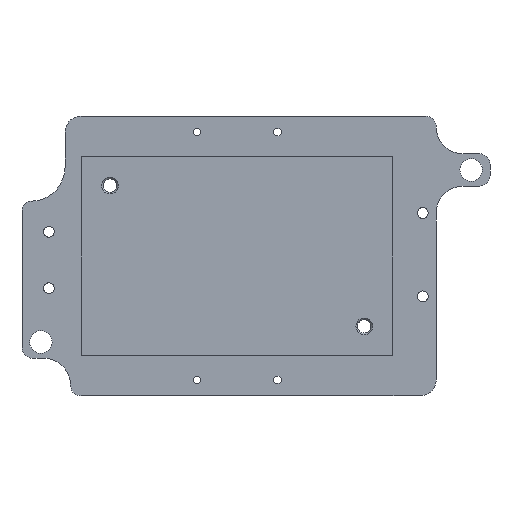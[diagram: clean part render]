
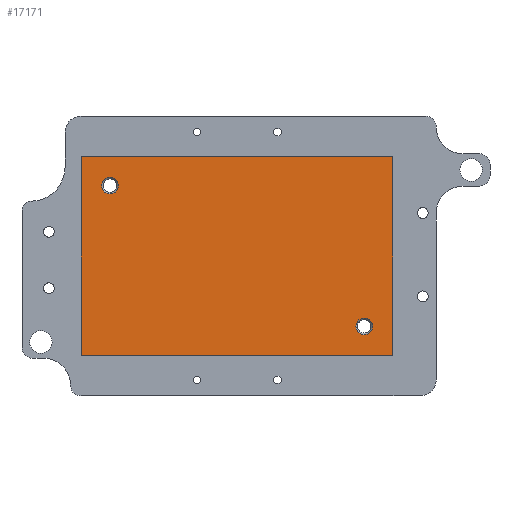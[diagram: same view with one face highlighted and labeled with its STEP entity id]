
A CAD part, front view. The second image highlights one B-rep face of the part: STEP entity #17171.
In plain terms, the highlighted planar face has unit normal (0, -1, 0).
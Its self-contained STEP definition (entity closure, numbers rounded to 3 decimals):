
#211=FACE_BOUND('',#1835,.T.);
#212=FACE_BOUND('',#1836,.T.);
#937=FACE_OUTER_BOUND('',#1834,.T.);
#1834=EDGE_LOOP('',(#14065,#14066,#14067,#14068));
#1835=EDGE_LOOP('',(#14069));
#1836=EDGE_LOOP('',(#14070));
#2114=CIRCLE('',#18114,1.55);
#2115=CIRCLE('',#18115,1.55);
#4053=LINE('',#26496,#6144);
#4057=LINE('',#26503,#6148);
#4060=LINE('',#26508,#6151);
#4061=LINE('',#26510,#6152);
#6144=VECTOR('',#21754,1000.);
#6148=VECTOR('',#21760,1000.);
#6151=VECTOR('',#21765,1000.);
#6152=VECTOR('',#21768,1000.);
#7700=VERTEX_POINT('',#26493);
#7701=VERTEX_POINT('',#26495);
#7703=VERTEX_POINT('',#26501);
#7704=VERTEX_POINT('',#26506);
#7705=VERTEX_POINT('',#26512);
#7706=VERTEX_POINT('',#26514);
#9869=EDGE_CURVE('',#7701,#7700,#4053,.T.);
#9873=EDGE_CURVE('',#7700,#7703,#4057,.T.);
#9876=EDGE_CURVE('',#7703,#7704,#4060,.T.);
#9877=EDGE_CURVE('',#7704,#7701,#4061,.T.);
#9878=EDGE_CURVE('',#7705,#7705,#2114,.T.);
#9879=EDGE_CURVE('',#7706,#7706,#2115,.T.);
#14065=ORIENTED_EDGE('',*,*,#9869,.T.);
#14066=ORIENTED_EDGE('',*,*,#9873,.T.);
#14067=ORIENTED_EDGE('',*,*,#9876,.T.);
#14068=ORIENTED_EDGE('',*,*,#9877,.T.);
#14069=ORIENTED_EDGE('',*,*,#9878,.T.);
#14070=ORIENTED_EDGE('',*,*,#9879,.T.);
#15559=PLANE('',#18113);
#17171=ADVANCED_FACE('',(#937,#211,#212),#15559,.F.);
#18113=AXIS2_PLACEMENT_3D('',#26511,#21769,#21770);
#18114=AXIS2_PLACEMENT_3D('',#26513,#21771,#21772);
#18115=AXIS2_PLACEMENT_3D('',#26515,#21773,#21774);
#21754=DIRECTION('',(0.,0.,1.));
#21760=DIRECTION('',(-1.,0.,0.));
#21765=DIRECTION('',(0.,0.,-1.));
#21768=DIRECTION('',(1.,0.,0.));
#21769=DIRECTION('center_axis',(0.,1.,0.));
#21770=DIRECTION('ref_axis',(0.,0.,
1.));
#21771=DIRECTION('center_axis',(0.,1.,0.));
#21772=DIRECTION('ref_axis',(0.,0.,
1.));
#21773=DIRECTION('center_axis',(0.,1.,0.));
#21774=DIRECTION('ref_axis',(0.,0.,
1.));
#26493=CARTESIAN_POINT('',(5.773,-14.756,18.415));
#26495=CARTESIAN_POINT('',(5.773,-14.756,-18.415));
#26496=CARTESIAN_POINT('',(5.773,-14.756,-18.415));
#26501=CARTESIAN_POINT('',(-52.137,-14.756,18.415));
#26503=CARTESIAN_POINT('',(-52.137,-14.756,18.415));
#26506=CARTESIAN_POINT('',(-52.137,-14.756,-18.415));
#26508=CARTESIAN_POINT('',(-52.137,-14.756,-18.415));
#26510=CARTESIAN_POINT('',(-52.137,-14.756,-18.415));
#26511=CARTESIAN_POINT('Origin',(-23.182,-14.756,0.));
#26512=CARTESIAN_POINT('',(-46.802,-14.756,14.63));
#26513=CARTESIAN_POINT('Origin',(-46.802,-14.756,13.08));
#26514=CARTESIAN_POINT('',(0.44,-14.756,-11.53));
#26515=CARTESIAN_POINT('Origin',(0.44,-14.756,-13.08));
